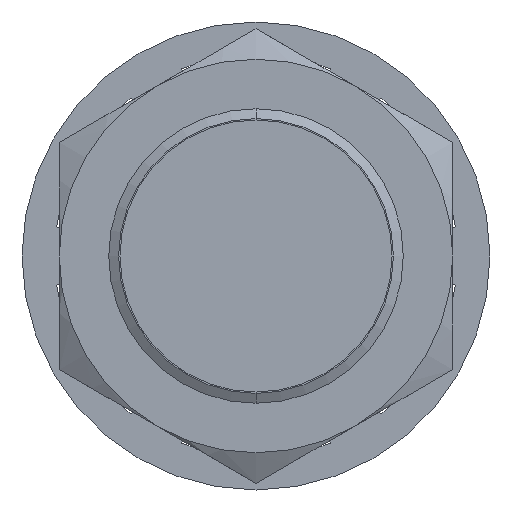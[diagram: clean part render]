
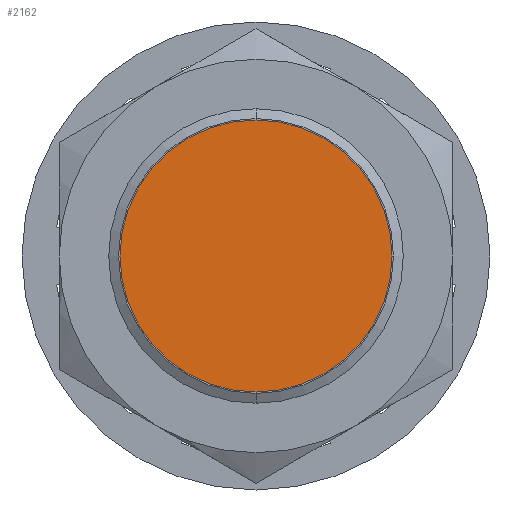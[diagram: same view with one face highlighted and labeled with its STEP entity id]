
A CAD part, left-side view. The second image highlights one B-rep face of the part: STEP entity #2162.
In plain terms, the highlighted planar face has unit normal (-1, 0, 0).
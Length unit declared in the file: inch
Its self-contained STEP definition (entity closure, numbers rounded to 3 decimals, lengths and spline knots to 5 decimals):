
#277 = ORIENTED_EDGE ( 'NONE', *, *, #11340, .F. ) ;
#867 = EDGE_CURVE ( 'NONE', #11083, #12528, #10771, .T. ) ;
#1303 = ORIENTED_EDGE ( 'NONE', *, *, #867, .F. ) ;
#1890 = EDGE_LOOP ( 'NONE', ( #1303, #277 ) ) ;
#2162 = ADVANCED_FACE ( 'NONE', ( #11646 ), #11647, .T. ) ;
#2328 = CARTESIAN_POINT ( 'NONE',  ( 3.57, 4., 0.327 ) ) ;
#2597 = CIRCLE ( 'NONE', #2598, 0.327 ) ;
#2598 = AXIS2_PLACEMENT_3D ( 'NONE', #2599, #2600, #2601 ) ;
#2599 = CARTESIAN_POINT ( 'NONE',  ( 3.57, 4., 0. ) ) ;
#2600 = DIRECTION ( 'NONE',  ( 1., 0., 0. ) ) ;
#2601 = DIRECTION ( 'NONE',  ( 0., 0., 1. ) ) ;
#3153 = CARTESIAN_POINT ( 'NONE',  ( 3.57, 4., -0.327 ) ) ;
#10771 = CIRCLE ( 'NONE', #10772, 0.327 ) ;
#10772 = AXIS2_PLACEMENT_3D ( 'NONE', #10773, #10774, #10775 ) ;
#10773 = CARTESIAN_POINT ( 'NONE',  ( 3.57, 4., 0. ) ) ;
#10774 = DIRECTION ( 'NONE',  ( 1., 0., 0. ) ) ;
#10775 = DIRECTION ( 'NONE',  ( 0., 0., 1. ) ) ;
#11083 = VERTEX_POINT ( 'NONE', #2328 ) ;
#11340 = EDGE_CURVE ( 'NONE', #12528, #11083, #2597, .T. ) ;
#11646 = FACE_OUTER_BOUND ( 'NONE', #1890, .T. ) ;
#11647 = PLANE ( 'NONE',  #11648 ) ;
#11648 = AXIS2_PLACEMENT_3D ( 'NONE', #11649, #11650, #11651 ) ;
#11649 = CARTESIAN_POINT ( 'NONE',  ( 3.57, 4., 0. ) ) ;
#11650 = DIRECTION ( 'NONE',  ( -1., 0., 0. ) ) ;
#11651 = DIRECTION ( 'NONE',  ( 0., 0., 1. ) ) ;
#12528 = VERTEX_POINT ( 'NONE', #3153 ) ;
